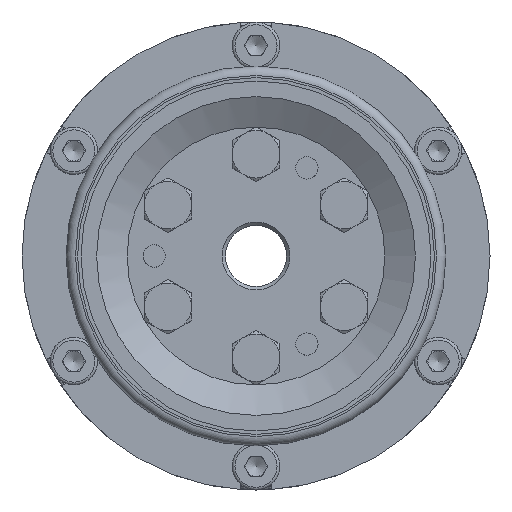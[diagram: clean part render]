
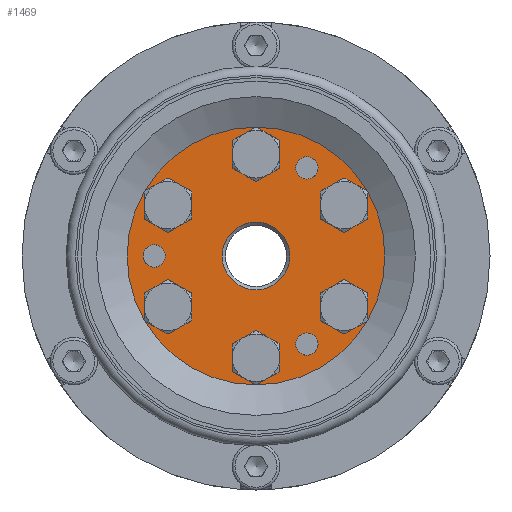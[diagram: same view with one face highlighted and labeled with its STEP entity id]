
A CAD part, left-side view. The second image highlights one B-rep face of the part: STEP entity #1469.
In plain terms, the highlighted planar face has unit normal (-1, 0, 0).
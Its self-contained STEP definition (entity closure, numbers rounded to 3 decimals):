
#1469 = ADVANCED_FACE( '', ( #3323, #3324, #3325, #3326, #3327, #3328, #3329, #3330, #3331, #3332, #3333 ), #3334, .T. );
#3323 = FACE_BOUND( '', #5980, .T. );
#3324 = FACE_OUTER_BOUND( '', #5981, .T. );
#3325 = FACE_BOUND( '', #5982, .T. );
#3326 = FACE_BOUND( '', #5983, .T. );
#3327 = FACE_BOUND( '', #5984, .T. );
#3328 = FACE_BOUND( '', #5985, .T. );
#3329 = FACE_BOUND( '', #5986, .T. );
#3330 = FACE_BOUND( '', #5987, .T. );
#3331 = FACE_BOUND( '', #5988, .T. );
#3332 = FACE_BOUND( '', #5989, .T. );
#3333 = FACE_BOUND( '', #5990, .T. );
#3334 = PLANE( '', #5991 );
#5980 = EDGE_LOOP( '', ( #10249 ) );
#5981 = EDGE_LOOP( '', ( #10250 ) );
#5982 = EDGE_LOOP( '', ( #10251 ) );
#5983 = EDGE_LOOP( '', ( #10252 ) );
#5984 = EDGE_LOOP( '', ( #10253 ) );
#5985 = EDGE_LOOP( '', ( #10254 ) );
#5986 = EDGE_LOOP( '', ( #10255 ) );
#5987 = EDGE_LOOP( '', ( #10256 ) );
#5988 = EDGE_LOOP( '', ( #10257 ) );
#5989 = EDGE_LOOP( '', ( #10258 ) );
#5990 = EDGE_LOOP( '', ( #10259 ) );
#5991 = AXIS2_PLACEMENT_3D( '', #10260, #10261, #10262 );
#10249 = ORIENTED_EDGE( '', *, *, #13511, .T. );
#10250 = ORIENTED_EDGE( '', *, *, #13467, .T. );
#10251 = ORIENTED_EDGE( '', *, *, #12035, .F. );
#10252 = ORIENTED_EDGE( '', *, *, #12766, .F. );
#10253 = ORIENTED_EDGE( '', *, *, #13512, .F. );
#10254 = ORIENTED_EDGE( '', *, *, #13513, .T. );
#10255 = ORIENTED_EDGE( '', *, *, #13441, .T. );
#10256 = ORIENTED_EDGE( '', *, *, #13514, .T. );
#10257 = ORIENTED_EDGE( '', *, *, #12662, .T. );
#10258 = ORIENTED_EDGE( '', *, *, #13515, .T. );
#10259 = ORIENTED_EDGE( '', *, *, #13214, .T. );
#10260 = CARTESIAN_POINT( '', ( -42.5, -2., 3.464 ) );
#10261 = DIRECTION( '', ( -1., 0., 0. ) );
#10262 = DIRECTION( '', ( 0., 1., 0. ) );
#12035 = EDGE_CURVE( '', #14058, #14058, #14059, .T. );
#12662 = EDGE_CURVE( '', #15124, #15124, #15125, .T. );
#12766 = EDGE_CURVE( '', #15288, #15288, #15289, .T. );
#13214 = EDGE_CURVE( '', #15914, #15914, #15915, .T. );
#13441 = EDGE_CURVE( '', #16217, #16217, #16218, .T. );
#13467 = EDGE_CURVE( '', #16251, #16251, #16252, .T. );
#13511 = EDGE_CURVE( '', #16305, #16305, #16306, .F. );
#13512 = EDGE_CURVE( '', #16307, #16307, #16308, .T. );
#13513 = EDGE_CURVE( '', #16309, #16309, #16310, .T. );
#13514 = EDGE_CURVE( '', #16311, #16311, #16312, .T. );
#13515 = EDGE_CURVE( '', #16313, #16313, #16314, .T. );
#14058 = VERTEX_POINT( '', #17045 );
#14059 = CIRCLE( '', #17046, 1.65 );
#15124 = VERTEX_POINT( '', #19454 );
#15125 = CIRCLE( '', #19455, 2.95 );
#15288 = VERTEX_POINT( '', #19685 );
#15289 = CIRCLE( '', #19686, 1.65 );
#15914 = VERTEX_POINT( '', #20742 );
#15915 = CIRCLE( '', #20743, 2.95 );
#16217 = VERTEX_POINT( '', #21322 );
#16218 = CIRCLE( '', #21323, 2.95 );
#16251 = VERTEX_POINT( '', #21362 );
#16252 = CIRCLE( '', #21363, 19. );
#16305 = VERTEX_POINT( '', #21443 );
#16306 = CIRCLE( '', #21444, 5. );
#16307 = VERTEX_POINT( '', #21445 );
#16308 = CIRCLE( '', #21446, 1.65 );
#16309 = VERTEX_POINT( '', #21447 );
#16310 = CIRCLE( '', #21448, 2.95 );
#16311 = VERTEX_POINT( '', #21449 );
#16312 = CIRCLE( '', #21450, 2.95 );
#16313 = VERTEX_POINT( '', #21451 );
#16314 = CIRCLE( '', #21452, 2.95 );
#17045 = CARTESIAN_POINT( '', ( -42.5, 14.175, 1.429 ) );
#17046 = AXIS2_PLACEMENT_3D( '', #22292, #22293, #22294 );
#19454 = CARTESIAN_POINT( '', ( -42.5, -14.465, -4.945 ) );
#19455 = AXIS2_PLACEMENT_3D( '', #23154, #23155, #23156 );
#19685 = CARTESIAN_POINT( '', ( -42.5, -8.325, 14.419 ) );
#19686 = AXIS2_PLACEMENT_3D( '', #23285, #23286, #23287 );
#20742 = CARTESIAN_POINT( '', ( -42.5, 11.515, -4.945 ) );
#20743 = AXIS2_PLACEMENT_3D( '', #23859, #23860, #23861 );
#21322 = CARTESIAN_POINT( '', ( -42.5, 11.515, 10.055 ) );
#21323 = AXIS2_PLACEMENT_3D( '', #24128, #24129, #24130 );
#21362 = CARTESIAN_POINT( '', ( -42.5, -9.5, 16.454 ) );
#21363 = AXIS2_PLACEMENT_3D( '', #24164, #24165, #24166 );
#21443 = CARTESIAN_POINT( '', ( -42.5, 0., 5. ) );
#21444 = AXIS2_PLACEMENT_3D( '', #24203, #24204, #24205 );
#21445 = CARTESIAN_POINT( '', ( -42.5, -8.325, -11.561 ) );
#21446 = AXIS2_PLACEMENT_3D( '', #24206, #24207, #24208 );
#21447 = CARTESIAN_POINT( '', ( -42.5, -1.475, 17.555 ) );
#21448 = AXIS2_PLACEMENT_3D( '', #24209, #24210, #24211 );
#21449 = CARTESIAN_POINT( '', ( -42.5, -14.465, 10.055 ) );
#21450 = AXIS2_PLACEMENT_3D( '', #24212, #24213, #24214 );
#21451 = CARTESIAN_POINT( '', ( -42.5, -1.475, -12.445 ) );
#21452 = AXIS2_PLACEMENT_3D( '', #24215, #24216, #24217 );
#22292 = CARTESIAN_POINT( '', ( -42.5, 15., 0. ) );
#22293 = DIRECTION( '', ( -1., 0., 0. ) );
#22294 = DIRECTION( '', ( 0., -0.5, 0.866 ) );
#23154 = CARTESIAN_POINT( '', ( -42.5, -12.99, -7.5 ) );
#23155 = DIRECTION( '', ( 1., 0., 0. ) );
#23156 = DIRECTION( '', ( 0., -0.5, 0.866 ) );
#23285 = CARTESIAN_POINT( '', ( -42.5, -7.5, 12.99 ) );
#23286 = DIRECTION( '', ( -1., 0., 0. ) );
#23287 = DIRECTION( '', ( 0., -0.5, 0.866 ) );
#23859 = CARTESIAN_POINT( '', ( -42.5, 12.99, -7.5 ) );
#23860 = DIRECTION( '', ( 1., 0., 0. ) );
#23861 = DIRECTION( '', ( 0., -0.5, 0.866 ) );
#24128 = CARTESIAN_POINT( '', ( -42.5, 12.99, 7.5 ) );
#24129 = DIRECTION( '', ( 1., 0., 0. ) );
#24130 = DIRECTION( '', ( 0., -0.5, 0.866 ) );
#24164 = CARTESIAN_POINT( '', ( -42.5, 0., 0. ) );
#24165 = DIRECTION( '', ( -1., 0., 0. ) );
#24166 = DIRECTION( '', ( 0., -0.5, 0.866 ) );
#24203 = CARTESIAN_POINT( '', ( -42.5, 0., 0. ) );
#24204 = DIRECTION( '', ( -1., 0., 0. ) );
#24205 = DIRECTION( '', ( 0., 0., 1. ) );
#24206 = CARTESIAN_POINT( '', ( -42.5, -7.5, -12.99 ) );
#24207 = DIRECTION( '', ( -1., 0., 0. ) );
#24208 = DIRECTION( '', ( 0., -0.5, 0.866 ) );
#24209 = CARTESIAN_POINT( '', ( -42.5, 0., 15. ) );
#24210 = DIRECTION( '', ( 1., 0., 0. ) );
#24211 = DIRECTION( '', ( 0., -0.5, 0.866 ) );
#24212 = CARTESIAN_POINT( '', ( -42.5, -12.99, 7.5 ) );
#24213 = DIRECTION( '', ( 1., 0., 0. ) );
#24214 = DIRECTION( '', ( 0., -0.5, 0.866 ) );
#24215 = CARTESIAN_POINT( '', ( -42.5, 0., -15. ) );
#24216 = DIRECTION( '', ( 1., 0., 0. ) );
#24217 = DIRECTION( '', ( 0., -0.5, 0.866 ) );
